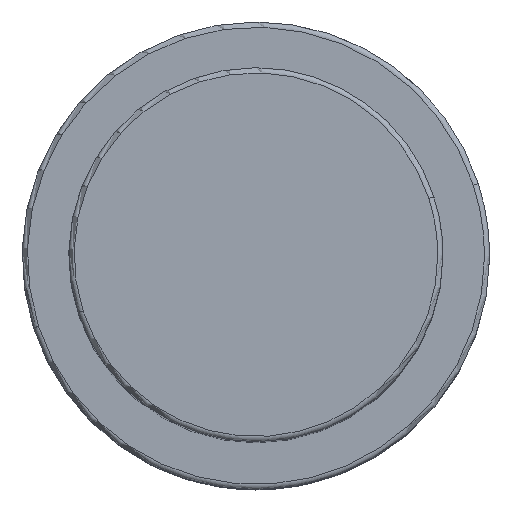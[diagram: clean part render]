
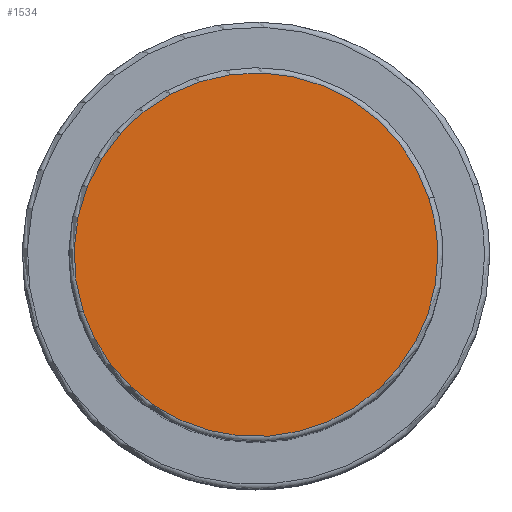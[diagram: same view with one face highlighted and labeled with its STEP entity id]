
A CAD part, top view. The second image highlights one B-rep face of the part: STEP entity #1534.
In plain terms, the highlighted planar face has unit normal (0, 0, 1).
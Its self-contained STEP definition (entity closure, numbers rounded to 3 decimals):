
#1467=CARTESIAN_POINT('',(16.643,5.408,83.0));
#1468=VERTEX_POINT('',#1467);
#1486=CARTESIAN_POINT('',(-16.643,-5.408,83.0));
#1487=VERTEX_POINT('',#1486);
#1495=CARTESIAN_POINT('',(0.0,0.0,83.0));
#1496=DIRECTION('',(0.0,0.0,1.0));
#1497=DIRECTION('',(1.0,0.0,0.0));
#1498=AXIS2_PLACEMENT_3D('',#1495,#1496,#1497);
#1499=CIRCLE('',#1498,17.5);
#1500=EDGE_CURVE('no 1656',#1468,#1487,#1499,.T.);
#1510=CARTESIAN_POINT('',(17.5,0.0,83.0));
#1511=VERTEX_POINT('',#1510);
#1512=CARTESIAN_POINT('',(0.0,0.0,83.0));
#1513=DIRECTION('',(0.0,0.0,1.0));
#1514=DIRECTION('',(1.0,0.0,0.0));
#1515=AXIS2_PLACEMENT_3D('',#1512,#1513,#1514);
#1516=CIRCLE('',#1515,17.5);
#1517=EDGE_CURVE('no 1665',#1511,#1468,#1516,.T.);
#1518=ORIENTED_EDGE('',*,*,#1517,.T.);
#1519=ORIENTED_EDGE('',*,*,#1500,.T.);
#1520=CARTESIAN_POINT('',(0.0,0.0,83.0));
#1521=DIRECTION('',(0.0,0.0,1.0));
#1522=DIRECTION('',(1.0,0.0,0.0));
#1523=AXIS2_PLACEMENT_3D('',#1520,#1521,#1522);
#1524=CIRCLE('',#1523,17.5);
#1525=EDGE_CURVE('no 1671',#1487,#1511,#1524,.T.);
#1526=ORIENTED_EDGE('',*,*,#1525,.T.);
#1527=EDGE_LOOP('',(#1518,#1519,#1526));
#1528=FACE_OUTER_BOUND('',#1527,.T.);
#1529=CARTESIAN_POINT('',(0.0,0.0,83.0));
#1530=DIRECTION('',(0.0,0.0,1.0));
#1531=DIRECTION('',(1.0,0.0,0.0));
#1532=AXIS2_PLACEMENT_3D('',#1529,#1530,#1531);
#1533=PLANE('',#1532);
#1534=ADVANCED_FACE('no 1658',(#1528),#1533,.T.);
